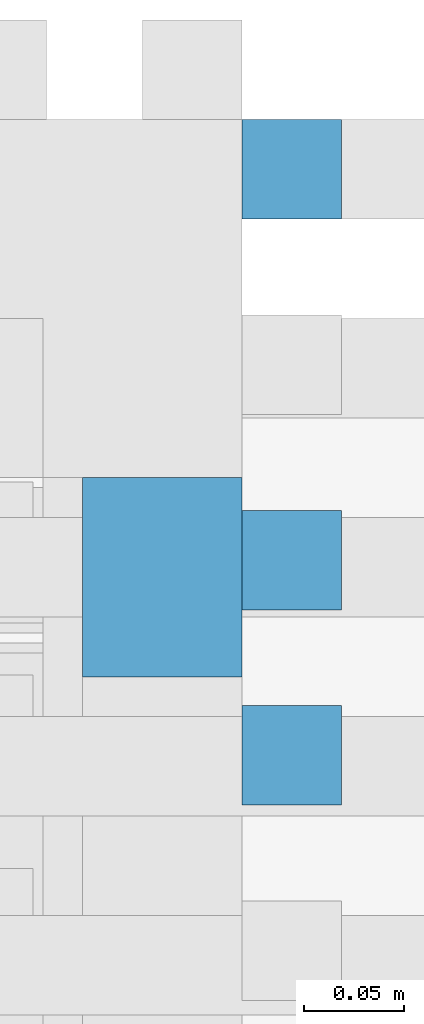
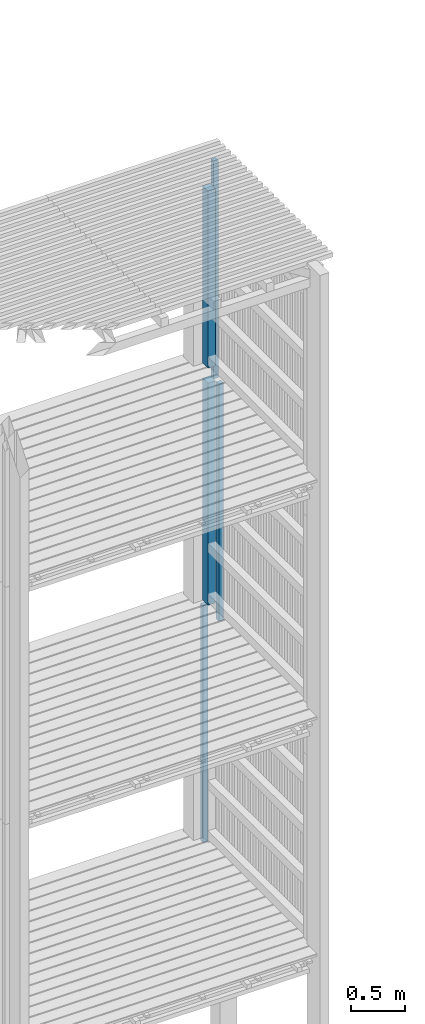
# One storey, part 160 of 182: 5 beams.
"""IFC2X3 building model written with IfcOpenShell, lengths in metres."""

from ifc_helpers import new_model, si_unit, frame, origin, place, context, project, spatial, faceted_brep, element, save


model = new_model("IFC2X3")

# Units and contexts
model_context = context("Model", 3, precision=1e-06, world=origin())
ifc_project = project(units=[si_unit("LENGTHUNIT", "METRE"), si_unit("PLANEANGLEUNIT", "RADIAN")], contexts=[model_context])

# Site, building, storey
site = spatial("IfcSite", under=ifc_project, CompositionType="ELEMENT")
building = spatial("IfcBuilding", under=site, CompositionType="ELEMENT")
storey = spatial("IfcBuildingStorey", under=building, Name="vs", CompositionType="ELEMENT", Elevation=-0.85)

# Beams
placement = place(None, origin())
beam_1_placement = place(placement, frame((36.40999999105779, 12.845077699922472, 2.575000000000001), z_axis=(-1.0, 0.0, 0.0), x_axis=(0.0, 0.0, 1.0)))
element("IfcBeam", 1, at=beam_1_placement, inside=storey, Name="Bardage", context=model_context, shape_type="Brep", body=[
    faceted_brep([(0.0, -0.025000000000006, 0.024999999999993), (0.0, 0.024999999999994, 0.024999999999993), (0.0, 0.024999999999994, -0.025000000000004), (0.0, -0.025000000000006, -0.025000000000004), (2.699961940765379, 0.024999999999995, -0.025000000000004), (2.699961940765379, 0.024999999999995, 0.024999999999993), (2.699961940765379, -0.025000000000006, 0.024999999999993), (2.699961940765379, -0.025000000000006, -0.025000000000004), (0.0, -0.025000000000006, -0.025000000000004), (0.0, 0.024999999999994, -0.025000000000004), (2.699961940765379, 0.024999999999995, -0.025000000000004), (2.699961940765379, -0.025000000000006, -0.025000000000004), (2.699961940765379, 0.024999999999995, -0.025000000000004), (0.0, 0.024999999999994, -0.025000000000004), (0.0, 0.024999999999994, 0.024999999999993), (2.699961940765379, 0.024999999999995, 0.024999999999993), (2.699961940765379, 0.024999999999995, 0.024999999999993), (0.0, 0.024999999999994, 0.024999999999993), (0.0, -0.025000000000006, 0.024999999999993), (2.699961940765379, -0.025000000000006, 0.024999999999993), (2.699961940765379, -0.025000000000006, 0.024999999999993), (0.0, -0.025000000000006, 0.024999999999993), (0.0, -0.025000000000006, -0.025000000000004), (2.699961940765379, -0.025000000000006, -0.025000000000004)], [[[0, 1, 2, 3]], [[4, 5, 6, 7]], [[8, 9, 10, 11]], [[12, 13, 14, 15]], [[16, 17, 18, 19]], [[20, 21, 22, 23]]]),
])
beam_2_placement = place(placement, frame((36.40999999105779, 12.648714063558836, 7.974999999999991), z_axis=(-1.0, 0.0, 0.0), x_axis=(0.0, 0.0, 1.0)))
element("IfcBeam", 2, at=beam_2_placement, inside=storey, Name="Bardage", context=model_context, shape_type="Brep", body=[
    faceted_brep([(2.479999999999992, -0.025000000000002, 0.024999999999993), (2.479999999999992, -0.025000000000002, -0.025000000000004), (2.479999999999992, 0.024999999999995, -0.025000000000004), (2.479999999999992, 0.024999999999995, 0.024999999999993), (0.0, 0.024999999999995, 0.024999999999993), (0.0, -0.025000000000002, 0.024999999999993), (2.479999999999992, -0.025000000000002, 0.024999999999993), (2.479999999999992, 0.024999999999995, 0.024999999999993), (0.0, -0.025000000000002, 0.024999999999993), (0.0, 0.024999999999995, 0.024999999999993), (0.0, 0.024999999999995, -0.025000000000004), (0.0, -0.025000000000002, -0.025000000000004), (0.0, 0.024999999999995, -0.025000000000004), (0.0, 0.024999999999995, 0.024999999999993), (2.479999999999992, 0.024999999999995, 0.024999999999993), (2.479999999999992, 0.024999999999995, -0.025000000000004), (0.0, -0.025000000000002, -0.025000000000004), (0.0, 0.024999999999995, -0.025000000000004), (2.479999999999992, 0.024999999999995, -0.025000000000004), (2.479999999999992, -0.025000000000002, -0.025000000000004), (2.479999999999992, -0.025000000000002, 0.024999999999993), (0.0, -0.025000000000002, 0.024999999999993), (0.0, -0.025000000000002, -0.025000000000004), (2.479999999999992, -0.025000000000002, -0.025000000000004)], [[[0, 1, 2, 3]], [[4, 5, 6, 7]], [[8, 9, 10, 11]], [[12, 13, 14, 15]], [[16, 17, 18, 19]], [[20, 21, 22, 23]]]),
])
beam_3_placement = place(placement, frame((36.40999999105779, 12.550532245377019, 5.274999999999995), z_axis=(-1.0, 0.0, 0.0), x_axis=(0.0, 0.0, 1.0)))
element("IfcBeam", 3, at=beam_3_placement, inside=storey, Name="Bardage", context=model_context, shape_type="Brep", body=[
    faceted_brep([(1e-15, -0.025000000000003, 0.024999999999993), (1e-15, 0.024999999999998, 0.024999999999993), (1e-15, 0.024999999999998, -0.025000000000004), (1e-15, -0.025000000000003, -0.025000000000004), (2.699999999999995, -0.025000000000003, -0.025000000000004), (2.699999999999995, 0.024999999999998, -0.025000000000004), (2.699999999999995, 0.024999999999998, 0.024999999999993), (2.699999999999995, -0.025000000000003, 0.024999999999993), (1e-15, -0.025000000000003, 0.024999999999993), (1e-15, -0.025000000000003, -0.025000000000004), (2.699999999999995, -0.025000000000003, -0.025000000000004), (2.699999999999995, -0.025000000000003, 0.024999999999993), (2.699999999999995, -0.025000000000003, -0.025000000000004), (1e-15, -0.025000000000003, -0.025000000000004), (1e-15, 0.024999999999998, -0.025000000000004), (2.699999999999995, 0.024999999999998, -0.025000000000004), (2.699999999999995, 0.024999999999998, -0.025000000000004), (1e-15, 0.024999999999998, -0.025000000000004), (1e-15, 0.024999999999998, 0.024999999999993), (2.699999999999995, 0.024999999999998, 0.024999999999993), (2.699999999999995, 0.024999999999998, 0.024999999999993), (1e-15, 0.024999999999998, 0.024999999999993), (1e-15, -0.025000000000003, 0.024999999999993), (2.699999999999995, -0.025000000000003, 0.024999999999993)], [[[0, 1, 2, 3]], [[4, 5, 6, 7]], [[8, 9, 10, 11]], [[12, 13, 14, 15]], [[16, 17, 18, 19]], [[20, 21, 22, 23]]]),
])
beam_4_placement = place(placement, frame((36.344999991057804, 12.640077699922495, 8.146999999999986), z_axis=(0.0, -1.0, 0.0), x_axis=(0.0, 0.0, 1.0)))
element("IfcBeam", 4, at=beam_4_placement, inside=storey, Name="Support bardage", context=model_context, shape_type="Brep", body=[
    faceted_brep([(2.017999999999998, -0.039999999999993, -0.05), (2.017999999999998, 0.04000000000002, -0.05), (2.017999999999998, 0.04000000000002, 0.050000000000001), (2.017999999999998, -0.039999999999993, 0.050000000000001), (1e-15, -0.039999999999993, 0.050000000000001), (1e-15, 0.04000000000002, 0.050000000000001), (1e-15, 0.04000000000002, -0.05), (1e-15, -0.039999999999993, -0.05), (1e-15, -0.039999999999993, 0.050000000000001), (1e-15, -0.039999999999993, -0.05), (2.017999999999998, -0.039999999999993, -0.05), (2.017999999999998, -0.039999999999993, 0.050000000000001), (1e-15, 0.04000000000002, 0.050000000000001), (1e-15, -0.039999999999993, 0.050000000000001), (2.017999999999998, -0.039999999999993, 0.050000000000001), (2.017999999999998, 0.04000000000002, 0.050000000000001), (1e-15, 0.04000000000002, -0.05), (1e-15, 0.04000000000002, 0.050000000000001), (2.017999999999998, 0.04000000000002, 0.050000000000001), (2.017999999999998, 0.04000000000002, -0.05), (1e-15, -0.039999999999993, -0.05), (1e-15, 0.04000000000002, -0.05), (2.017999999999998, 0.04000000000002, -0.05), (2.017999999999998, -0.039999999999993, -0.05)], [[[0, 1, 2, 3]], [[4, 5, 6, 7]], [[8, 9, 10, 11]], [[12, 13, 14, 15]], [[16, 17, 18, 19]], [[20, 21, 22, 23]]]),
])
beam_5_placement = place(placement, frame((36.344999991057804, 12.640077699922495, 5.446999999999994), z_axis=(0.0, -1.0, 0.0), x_axis=(0.0, 0.0, 1.0)))
element("IfcBeam", 5, at=beam_5_placement, inside=storey, Name="Support bardage", context=model_context, shape_type="Brep", body=[
    faceted_brep([(2.527999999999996, -0.039999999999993, 0.050000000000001), (2.527999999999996, -0.039999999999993, -0.05), (2.527999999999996, 0.04000000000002, -0.05), (2.527999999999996, 0.04000000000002, 0.050000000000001), (0.0, 0.04000000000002, 0.050000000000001), (0.0, -0.039999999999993, 0.050000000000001), (2.527999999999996, -0.039999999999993, 0.050000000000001), (2.527999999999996, 0.04000000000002, 0.050000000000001), (0.0, -0.039999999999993, 0.050000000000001), (0.0, 0.04000000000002, 0.050000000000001), (0.0, 0.04000000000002, -0.05), (0.0, -0.039999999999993, -0.05), (2.527999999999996, -0.039999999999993, 0.050000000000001), (0.0, -0.039999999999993, 0.050000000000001), (0.0, -0.039999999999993, -0.05), (2.527999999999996, -0.039999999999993, -0.05), (2.527999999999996, -0.039999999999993, -0.05), (0.0, -0.039999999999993, -0.05), (0.0, 0.04000000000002, -0.05), (2.527999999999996, 0.04000000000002, -0.05), (2.527999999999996, 0.04000000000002, -0.05), (0.0, 0.04000000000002, -0.05), (0.0, 0.04000000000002, 0.050000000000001), (2.527999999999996, 0.04000000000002, 0.050000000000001)], [[[0, 1, 2, 3]], [[4, 5, 6, 7]], [[8, 9, 10, 11]], [[12, 13, 14, 15]], [[16, 17, 18, 19]], [[20, 21, 22, 23]]]),
])

save(model, "model.ifc")
